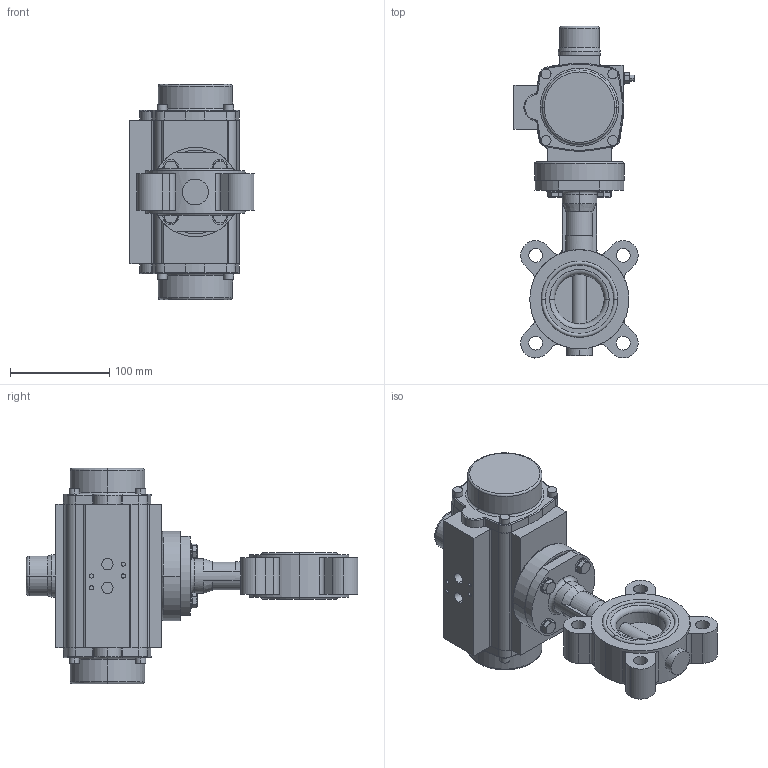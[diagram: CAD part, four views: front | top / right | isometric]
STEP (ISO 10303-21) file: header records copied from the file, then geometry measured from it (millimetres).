
FILE_DESCRIPTION (( 'STEP AP214' ), '1' );
FILE_NAME ('67347.step', '2020-10-23T12:38:11', ( '' ), ( '' ), 'SwSTEP 2.0', 'SolidWorks 2019', '' );
FILE_SCHEMA (( 'AUTOMOTIVE_DESIGN' ));
Length unit declared in the file: millimetre
Products named in the file (8): Flanschadapter F07-F05; TL20-0050_M01; 67335_15x15x2 - L=18; SR0080-V17_02; Achtkantreduktion 17-11 mm; 6kt-Schr DIN 933_M8x45; 67347; U-Scheibe DIN 125 A_M8
Assembly tree (13 placements, depth 2):
  67347
    TL20-0050_M01
    SR0080-V17_02
    U-Scheibe DIN 125 A_M8  x4
    6kt-Schr DIN 933_M8x45  x4
    Achtkantreduktion 17-11 mm
    Flanschadapter F07-F05
    67335_15x15x2 - L=18
Bounding box: 125.14 x 334.67 x 217 mm (x, y, z)
Volume: 2307703.4 mm3; surface area: 231147 mm2
Topology: 15 solids, 15 shells, 782 faces, 1956 edges, 1255 vertices
Faces by surface type: plane 354, cylinder 322, torus 50, cone 44, bspline 12
Entity records: 24334 total; most frequent: CARTESIAN_POINT 4588, DIRECTION 3877, ORIENTED_EDGE 3504, EDGE_CURVE 1752, AXIS2_PLACEMENT_3D 1498, VERTEX_POINT 1135, VECTOR 881, LINE 881
